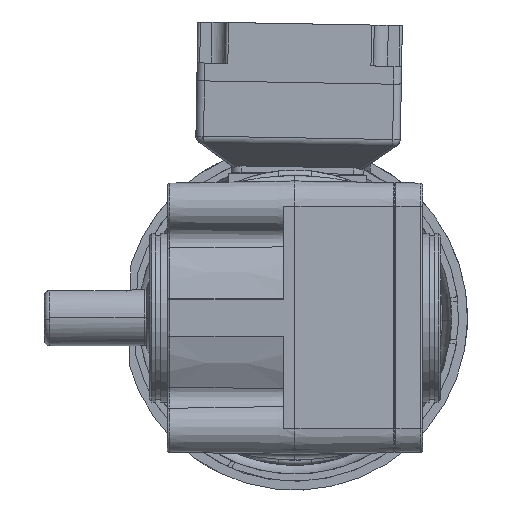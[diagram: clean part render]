
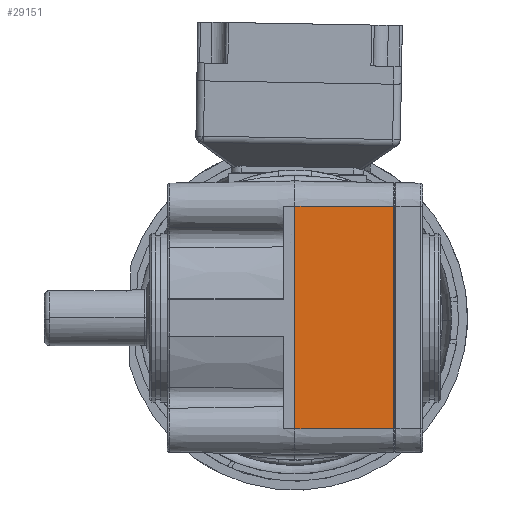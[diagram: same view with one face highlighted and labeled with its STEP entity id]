
A CAD part, front view. The second image highlights one B-rep face of the part: STEP entity #29151.
In plain terms, the highlighted planar face has unit normal (0.018, -1, 0).
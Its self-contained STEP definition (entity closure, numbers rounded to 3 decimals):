
#56 = ORIENTED_EDGE ( 'NONE', *, *, #14920, .T. ) ;
#111 = PLANE ( 'NONE',  #48565 ) ;
#2468 = VECTOR ( 'NONE', #7568, 1000. ) ;
#2942 = EDGE_CURVE ( 'NONE', #18798, #33404, #11994, .T. ) ;
#5384 = EDGE_LOOP ( 'NONE', ( #12077, #13095, #56, #37308 ) ) ;
#5916 = CARTESIAN_POINT ( 'NONE',  ( 0., -237.02, 43.5 ) ) ;
#7568 = DIRECTION ( 'NONE',  ( 0., 0., 1. ) ) ;
#8988 = DIRECTION ( 'NONE',  ( -1., -0.017, 0. ) ) ;
#9286 = LINE ( 'NONE', #38476, #32958 ) ;
#9833 = VECTOR ( 'NONE', #37101, 1000. ) ;
#11994 = LINE ( 'NONE', #46496, #2468 ) ;
#12077 = ORIENTED_EDGE ( 'NONE', *, *, #2942, .T. ) ;
#12604 = FACE_OUTER_BOUND ( 'NONE', #5384, .T. ) ;
#12776 = CARTESIAN_POINT ( 'NONE',  ( 0., -237.02, 43.5 ) ) ;
#13095 = ORIENTED_EDGE ( 'NONE', *, *, #22286, .T. ) ;
#13637 = VERTEX_POINT ( 'NONE', #43024 ) ;
#14920 = EDGE_CURVE ( 'NONE', #35808, #13637, #46438, .T. ) ;
#18798 = VERTEX_POINT ( 'NONE', #25081 ) ;
#21114 = DIRECTION ( 'NONE',  ( 0., 0., -1. ) ) ;
#21508 = DIRECTION ( 'NONE',  ( 0.017, -1., 0. ) ) ;
#22286 = EDGE_CURVE ( 'NONE', #33404, #35808, #9286, .T. ) ;
#25081 = CARTESIAN_POINT ( 'NONE',  ( 38.5, -236.348, -43.5 ) ) ;
#29151 = ADVANCED_FACE ( 'NONE', ( #12604 ), #111, .T. ) ;
#29551 = DIRECTION ( 'NONE',  ( 0., 0., -1. ) ) ;
#32624 = LINE ( 'NONE', #45453, #9833 ) ;
#32958 = VECTOR ( 'NONE', #8988, 1000. ) ;
#33404 = VERTEX_POINT ( 'NONE', #47233 ) ;
#35808 = VERTEX_POINT ( 'NONE', #5916 ) ;
#37101 = DIRECTION ( 'NONE',  ( 1., 0.017, 0. ) ) ;
#37308 = ORIENTED_EDGE ( 'NONE', *, *, #52040, .T. ) ;
#38182 = CARTESIAN_POINT ( 'NONE',  ( 0., -237.02, 43.5 ) ) ;
#38476 = CARTESIAN_POINT ( 'NONE',  ( 38.5, -236.348, 43.5 ) ) ;
#43024 = CARTESIAN_POINT ( 'NONE',  ( 0., -237.02, -43.5 ) ) ;
#45453 = CARTESIAN_POINT ( 'NONE',  ( 0., -237.02, -43.5 ) ) ;
#46438 = LINE ( 'NONE', #12776, #47028 ) ;
#46496 = CARTESIAN_POINT ( 'NONE',  ( 38.5, -236.348, -43.5 ) ) ;
#47028 = VECTOR ( 'NONE', #21114, 1000. ) ;
#47233 = CARTESIAN_POINT ( 'NONE',  ( 38.5, -236.348, 43.5 ) ) ;
#48565 = AXIS2_PLACEMENT_3D ( 'NONE', #38182, #21508, #29551 ) ;
#52040 = EDGE_CURVE ( 'NONE', #13637, #18798, #32624, .T. ) ;
